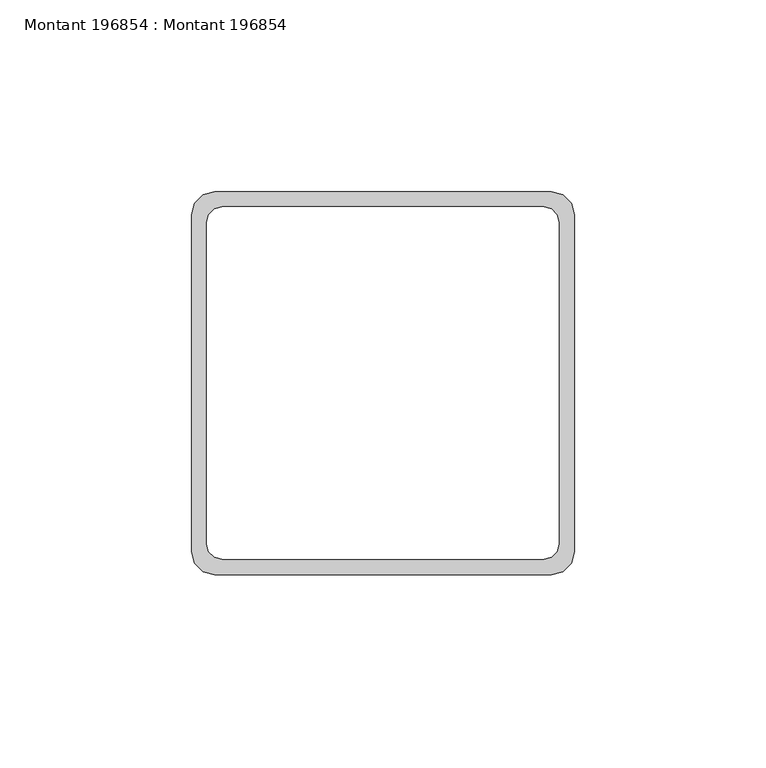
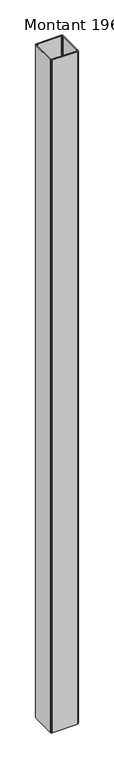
"""IFC4 building model written with IfcOpenShell, lengths in millimetres: beam geometry, Montant 196854 : Montant 196854."""

from ifc_helpers import new_model, si_unit, frame, origin, place, context, project, spatial, polyline, outline, extrude, source, transform, mapped, element, save


def montant_196854_montant_196854_89ce9b73(model_context):
    return source(origin(), model_context, "Body", "SweptSolid", [
        extrude(outline(polyline([(14845.9999999, -23519.5), (14842.9999999, -23518.6961524), (14840.8038474, -23516.5), (14839.9999999, -23513.5), (14839.9999999, -23425.5), (14840.8038474, -23422.5), (14842.9999999, -23420.3038476), (14845.9999999, -23419.5), (14933.9999999, -23419.5), (14936.9999999, -23420.3038476), (14939.1961523, -23422.5), (14939.9999999, -23425.5), (14939.9999999, -23513.5), (14939.1961523, -23516.5), (14936.9999999, -23518.6961524), (14933.9999999, -23519.5), (14845.9999999, -23519.5)]), holes=[polyline([(14931.9999999, -23515.5), (14933.9999999, -23514.9641016), (14935.4641015, -23513.5), (14935.9999999, -23511.5), (14935.9999999, -23427.5), (14935.4641015, -23425.5), (14933.9999999, -23424.0358984), (14931.9999999, -23423.5), (14847.9999999, -23423.5), (14845.9999999, -23424.0358984), (14844.5358983, -23425.5), (14843.9999999, -23427.5), (14843.9999999, -23511.5), (14844.5358983, -23513.5), (14845.9999999, -23514.9641016), (14847.9999999, -23515.5), (14931.9999999, -23515.5)])]), frame((0.0, 0.0, 8550.0), z_axis=(0.0, 0.0, 1.0), x_axis=(1.0, 0.0, 0.0)), (0.0, 0.0, 1.0), 2530.0),
    ])


if __name__ == "__main__":
    model = new_model("IFC4")
    model_context = context("Model", 3, world=origin())
    ifc_project = project(units=[si_unit("LENGTHUNIT", "METRE", prefix="MILLI")], contexts=[model_context])
    site = spatial("IfcSite", under=ifc_project)
    building = spatial("IfcBuilding", under=site)
    placement = place(None, origin())
    montant_196854_montant_196854_shape = montant_196854_montant_196854_89ce9b73(model_context)
    element("IfcBeam", 1, ObjectType="Montant 196854 : Montant 196854", at=placement, inside=building, context=model_context, shape_type="MappedRepresentation", body=[
        mapped(montant_196854_montant_196854_shape, transform((0.0, 0.0, 0.0), x_axis=(1.0, 0.0, 0.0), y_axis=(0.0, 1.0, 0.0), z_axis=(0.0, 0.0, 1.0))),
    ])
    save(model, "model.ifc")
